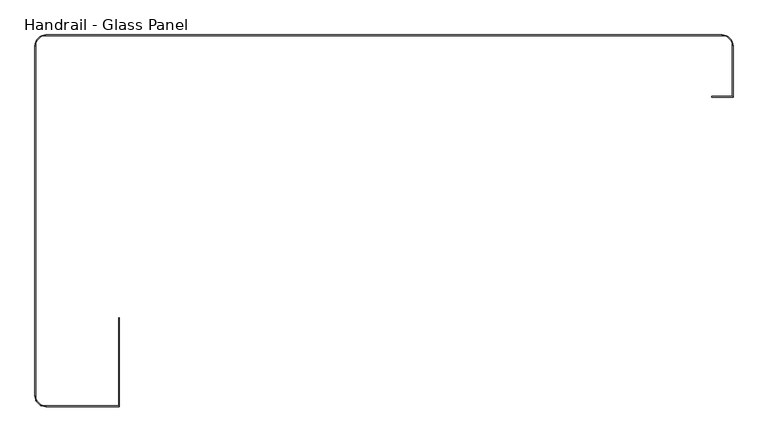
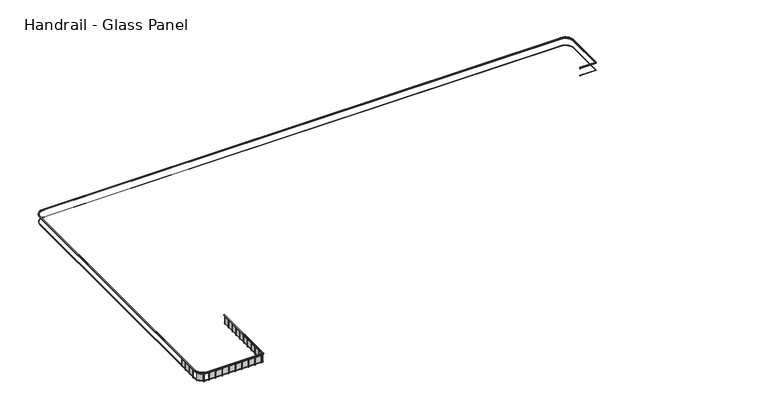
"""IFC4 building model written with IfcOpenShell, lengths in millimetres: railing geometry, Handrail - Glass Panel."""

from ifc_helpers import new_model, si_unit, frame, origin, place, context, project, spatial, polyline, circle_curve, outline, extrude, source, transform, mapped, element, save
from ifc_brep_helpers import plane_surface, cylinder_surface, revolved_surface, advanced_brep


def handrail_glass_panel_1c422638(model_context):
    return source(origin(), model_context, "Body", "SolidModel", [
        advanced_brep(
        [(29418.8682249, 6846.5851347, 12764.4), (29418.8682249, 6897.3851347, 12764.4), (29418.8682249, 6897.3851347, 12713.6), (29418.8682249, 6846.5851347, 12713.6), (31013.2134101, 6846.5851347, 12764.4), (30962.4134101, 6897.3851347, 12764.4), (30962.4134101, 6897.3851347, 12713.6), (31013.2134101, 6846.5851347, 12713.6), (31013.2134101, 10647.3851347, 12764.4), (30962.4134101, 10647.3851347, 12764.4), (30962.4134101, 10647.3851347, 12713.6), (31013.2134101, 10647.3851347, 12713.6), (30212.4134101, 11397.3851347, 12764.4), (30212.4134101, 11448.1851347, 12764.4), (30212.4134101, 11397.3851347, 12713.6), (30212.4134101, 11448.1851347, 12713.6), (-19787.5865899, 11448.1851347, 12764.4), (-19787.5865899, 11397.3851347, 12764.4), (-19787.5865899, 11397.3851347, 12713.6), (-19787.5865899, 11448.1851347, 12713.6), (-20537.5865899, 10647.3851347, 12764.4), (-20588.3865899, 10647.3851347, 12764.4), (-20537.5865899, 10647.3851347, 12713.6), (-20588.3865899, 10647.3851347, 12713.6), (-20588.3865899, -15222.6148653, 12764.4), (-20537.5865899, -15222.6148653, 12764.4), (-20537.5865899, -15222.6148653, 12713.6), (-20588.3865899, -15222.6148653, 12713.6), (-19787.5865899, -15972.6148653, 12764.4), (-19787.5865899, -16023.4148653, 12764.4), (-19787.5865899, -15972.6148653, 12713.6), (-19787.5865899, -16023.4148653, 12713.6), (-14346.7865899, -16023.4148653, 12764.4), (-14397.5865899, -15972.6148653, 12764.4), (-14397.5865899, -15972.6148653, 12713.6), (-14346.7865899, -16023.4148653, 12713.6), (-14346.7865899, -9472.6148653, 12764.4), (-14346.7865899, -9472.6148653, 12713.6), (-14397.5865899, -9472.6148653, 12713.6), (-14397.5865899, -9472.6148653, 12764.4)],
        [
            (0, 1),
            (1, 2),
            (2, 3),
            (3, 0),
            (0, 4),
            (4, 5),
            (5, 1),
            (5, 6),
            (6, 2),
            (6, 7),
            (7, 3),
            (7, 4),
            (4, 8),
            (8, 9),
            (9, 5),
            (9, 10),
            (10, 6),
            (10, 11),
            (11, 7),
            (11, 8),
            (12, 9, circle_curve(frame((30212.4134101, 10647.3851347, 12764.4), z_axis=(0.0, 0.0, -1.0), x_axis=(1.0, 0.0, 0.0)), 750.0)),
            (8, 13, circle_curve(frame((30212.4134101, 10647.3851347, 12764.4), z_axis=(0.0, 0.0, 1.0), x_axis=(1.0, 0.0, 0.0)), 800.8)),
            (13, 12),
            (14, 10, circle_curve(frame((30212.4134101, 10647.3851347, 12713.6), z_axis=(0.0, 0.0, -1.0), x_axis=(1.0, 0.0, 0.0)), 750.0)),
            (12, 14),
            (15, 11, circle_curve(frame((30212.4134101, 10647.3851347, 12713.6), z_axis=(0.0, 0.0, -1.0), x_axis=(1.0, 0.0, 0.0)), 800.8)),
            (14, 15),
            (15, 13),
            (13, 16),
            (16, 17),
            (17, 12),
            (17, 18),
            (18, 14),
            (18, 19),
            (19, 15),
            (19, 16),
            (20, 17, circle_curve(frame((-19787.5865899, 10647.3851347, 12764.4), z_axis=(0.0, 0.0, -1.0), x_axis=(0.0, 1.0, 0.0)), 750.0)),
            (16, 21, circle_curve(frame((-19787.5865899, 10647.3851347, 12764.4), z_axis=(0.0, 0.0, 1.0), x_axis=(0.0, 1.0, 0.0)), 800.8)),
            (21, 20),
            (22, 18, circle_curve(frame((-19787.5865899, 10647.3851347, 12713.6), z_axis=(0.0, 0.0, -1.0), x_axis=(0.0, 1.0, 0.0)), 750.0)),
            (20, 22),
            (23, 19, circle_curve(frame((-19787.5865899, 10647.3851347, 12713.6), z_axis=(0.0, 0.0, -1.0), x_axis=(0.0, 1.0, 0.0)), 800.8)),
            (22, 23),
            (23, 21),
            (21, 24),
            (24, 25),
            (25, 20),
            (25, 26),
            (26, 22),
            (26, 27),
            (27, 23),
            (27, 24),
            (28, 25, circle_curve(frame((-19787.5865899, -15222.6148653, 12764.4), z_axis=(0.0, 0.0, -1.0), x_axis=(-1.0, 0.0, 0.0)), 750.0)),
            (24, 29, circle_curve(frame((-19787.5865899, -15222.6148653, 12764.4), z_axis=(0.0, 0.0, 1.0), x_axis=(-1.0, 0.0, 0.0)), 800.8)),
            (29, 28),
            (30, 26, circle_curve(frame((-19787.5865899, -15222.6148653, 12713.6), z_axis=(0.0, 0.0, -1.0), x_axis=(-1.0, 0.0, 0.0)), 750.0)),
            (28, 30),
            (31, 27, circle_curve(frame((-19787.5865899, -15222.6148653, 12713.6), z_axis=(0.0, 0.0, -1.0), x_axis=(-1.0, 0.0, 0.0)), 800.8)),
            (30, 31),
            (31, 29),
            (29, 32),
            (32, 33),
            (33, 28),
            (33, 34),
            (34, 30),
            (34, 35),
            (35, 31),
            (35, 32),
            (36, 37),
            (37, 38),
            (38, 39),
            (39, 36),
            (32, 36),
            (39, 33),
            (38, 34),
            (37, 35),
        ],
        [
            plane_surface(frame((29418.8682249, 6871.9851347, 12764.4), z_axis=(-1.0, 0.0, 0.0), x_axis=(0.0, 1.0, 0.0))),
            plane_surface(frame((29418.8682249, 6846.5851347, 12764.4), z_axis=(0.0, 0.0, 1.0), x_axis=(1.0, 0.0, 0.0))),
            plane_surface(frame((29418.8682249, 6897.3851347, 12764.4), z_axis=(0.0, 1.0, 0.0), x_axis=(1.0, 0.0, 0.0))),
            plane_surface(frame((29418.8682249, 6897.3851347, 12713.6), z_axis=(0.0, 0.0, -1.0), x_axis=(1.0, 0.0, 0.0))),
            plane_surface(frame((29418.8682249, 6846.5851347, 12713.6), z_axis=(0.0, -1.0, 0.0), x_axis=(1.0, 0.0, 0.0))),
            plane_surface(frame((31013.2134101, 6846.5851347, 12764.4), z_axis=(0.0, 0.0, 1.0), x_axis=(0.0, 1.0, 0.0))),
            plane_surface(frame((30962.4134101, 6897.3851347, 12764.4), z_axis=(-1.0, 0.0, 0.0), x_axis=(0.0, 1.0, 0.0))),
            plane_surface(frame((30962.4134101, 6897.3851347, 12713.6), z_axis=(0.0, 0.0, -1.0), x_axis=(0.0, 1.0, 0.0))),
            plane_surface(frame((31013.2134101, 6846.5851347, 12713.6), z_axis=(1.0, 0.0, 0.0), x_axis=(0.0, 1.0, 0.0))),
            plane_surface(frame((30212.4134101, 10647.3851347, 12764.4), z_axis=(0.0, 0.0, 1.0), x_axis=(1.0, 0.0, 0.0))),
            revolved_surface(polyline([(30962.4134101, 10647.3851347, 12764.4), (30962.4134101, 10647.3851347, 12713.6)]), (30212.4134101, 10647.3851347, 12764.4), (0.0, 0.0, 1.0)),
            plane_surface(frame((30212.4134101, 10647.3851347, 12713.6), z_axis=(0.0, 0.0, -1.0), x_axis=(1.0, 0.0, 0.0))),
            cylinder_surface(frame((30212.4134101, 10647.3851347, 12764.4), z_axis=(0.0, 0.0, 1.0), x_axis=(1.0, 0.0, 0.0)), 800.8),
            plane_surface(frame((30212.4134101, 11448.1851347, 12764.4), z_axis=(0.0, 0.0, 1.0), x_axis=(-1.0, 0.0, 0.0))),
            plane_surface(frame((30212.4134101, 11397.3851347, 12764.4), z_axis=(0.0, -1.0, 0.0), x_axis=(-1.0, 0.0, 0.0))),
            plane_surface(frame((30212.4134101, 11397.3851347, 12713.6), z_axis=(0.0, 0.0, -1.0), x_axis=(-1.0, 0.0, 0.0))),
            plane_surface(frame((30212.4134101, 11448.1851347, 12713.6), z_axis=(0.0, 1.0, 0.0), x_axis=(-1.0, 0.0, 0.0))),
            plane_surface(frame((-19787.5865899, 10647.3851347, 12764.4), z_axis=(0.0, 0.0, 1.0), x_axis=(0.0, 1.0, 0.0))),
            revolved_surface(polyline([(-19787.5865899, 11397.3851347, 12764.4), (-19787.5865899, 11397.3851347, 12713.6)]), (-19787.5865899, 10647.3851347, 12764.4), (0.0, 0.0, 1.0)),
            plane_surface(frame((-19787.5865899, 10647.3851347, 12713.6), z_axis=(0.0, 0.0, -1.0), x_axis=(0.0, 1.0, 0.0))),
            cylinder_surface(frame((-19787.5865899, 10647.3851347, 12764.4), z_axis=(0.0, 0.0, 1.0), x_axis=(0.0, 1.0, 0.0)), 800.8),
            plane_surface(frame((-20588.3865899, 10647.3851347, 12764.4), z_axis=(0.0, 0.0, 1.0), x_axis=(0.0, -1.0, 0.0))),
            plane_surface(frame((-20537.5865899, 10647.3851347, 12764.4), z_axis=(1.0, 0.0, 0.0), x_axis=(0.0, -1.0, 0.0))),
            plane_surface(frame((-20537.5865899, 10647.3851347, 12713.6), z_axis=(0.0, 0.0, -1.0), x_axis=(0.0, -1.0, 0.0))),
            plane_surface(frame((-20588.3865899, 10647.3851347, 12713.6), z_axis=(-1.0, 0.0, 0.0), x_axis=(0.0, -1.0, 0.0))),
            plane_surface(frame((-19787.5865899, -15222.6148653, 12764.4), z_axis=(0.0, 0.0, 1.0), x_axis=(-1.0, 0.0, 0.0))),
            revolved_surface(polyline([(-20537.5865899, -15222.6148653, 12764.4), (-20537.5865899, -15222.6148653, 12713.6)]), (-19787.5865899, -15222.6148653, 12764.4), (0.0, 0.0, 1.0)),
            plane_surface(frame((-19787.5865899, -15222.6148653, 12713.6), z_axis=(0.0, 0.0, -1.0), x_axis=(-1.0, 0.0, 0.0))),
            cylinder_surface(frame((-19787.5865899, -15222.6148653, 12764.4), z_axis=(0.0, 0.0, 1.0), x_axis=(-1.0, 0.0, 0.0)), 800.8),
            plane_surface(frame((-19787.5865899, -16023.4148653, 12764.4), z_axis=(0.0, 0.0, 1.0), x_axis=(1.0, 0.0, 0.0))),
            plane_surface(frame((-19787.5865899, -15972.6148653, 12764.4), z_axis=(0.0, 1.0, 0.0), x_axis=(1.0, 0.0, 0.0))),
            plane_surface(frame((-19787.5865899, -15972.6148653, 12713.6), z_axis=(0.0, 0.0, -1.0), x_axis=(1.0, 0.0, 0.0))),
            plane_surface(frame((-19787.5865899, -16023.4148653, 12713.6), z_axis=(0.0, -1.0, 0.0), x_axis=(1.0, 0.0, 0.0))),
            plane_surface(frame((-14372.1865899, -9472.6148653, 12764.4), z_axis=(0.0, 1.0, 0.0), x_axis=(0.0, 0.0, 1.0))),
            plane_surface(frame((-14346.7865899, -16023.4148653, 12764.4), z_axis=(0.0, 0.0, 1.0), x_axis=(0.0, 1.0, 0.0))),
            plane_surface(frame((-14397.5865899, -15972.6148653, 12764.4), z_axis=(-1.0, 0.0, 0.0), x_axis=(0.0, 1.0, 0.0))),
            plane_surface(frame((-14397.5865899, -15972.6148653, 12713.6), z_axis=(0.0, 0.0, -1.0), x_axis=(0.0, 1.0, 0.0))),
            plane_surface(frame((-14346.7865899, -16023.4148653, 12713.6), z_axis=(1.0, 0.0, 0.0), x_axis=(0.0, 1.0, 0.0))),
        ],
        [
            (0, [[1, 2, 3, 4]]),
            (1, [[-1, 5, 6, 7]]),
            (2, [[-2, -7, 8, 9]]),
            (3, [[-3, -9, 10, 11]]),
            (4, [[-4, -11, 12, -5]]),
            (5, [[-6, 13, 14, 15]]),
            (6, [[-8, -15, 16, 17]]),
            (7, [[-10, -17, 18, 19]]),
            (8, [[-12, -19, 20, -13]]),
            (9, [[21, -14, 22, 23]]),
            (10, [[24, -16, -21, 25]]),
            (11, [[26, -18, -24, 27]]),
            (12, [[-22, -20, -26, 28]]),
            (13, [[-23, 29, 30, 31]]),
            (14, [[-25, -31, 32, 33]]),
            (15, [[-27, -33, 34, 35]]),
            (16, [[-28, -35, 36, -29]]),
            (17, [[37, -30, 38, 39]]),
            (18, [[40, -32, -37, 41]]),
            (19, [[42, -34, -40, 43]]),
            (20, [[-38, -36, -42, 44]]),
            (21, [[-39, 45, 46, 47]]),
            (22, [[-41, -47, 48, 49]]),
            (23, [[-43, -49, 50, 51]]),
            (24, [[-44, -51, 52, -45]]),
            (25, [[53, -46, 54, 55]]),
            (26, [[56, -48, -53, 57]]),
            (27, [[58, -50, -56, 59]]),
            (28, [[-54, -52, -58, 60]]),
            (29, [[-55, 61, 62, 63]]),
            (30, [[-57, -63, 64, 65]]),
            (31, [[-59, -65, 66, 67]]),
            (32, [[-60, -67, 68, -61]]),
            (33, [[69, 70, 71, 72]]),
            (34, [[-62, 73, -72, 74]]),
            (35, [[-64, -74, -71, 75]]),
            (36, [[-66, -75, -70, 76]]),
            (37, [[-68, -76, -69, -73]]),
        ],
    ),
        advanced_brep(
        [(29418.8682249, 6859.2851347, 12662.8), (29418.8682249, 6884.6851347, 12662.8), (29418.8682249, 6884.6851347, 12637.4), (29418.8682249, 6859.2851347, 12637.4), (31000.5134101, 6859.2851347, 12662.8), (30975.1134101, 6884.6851347, 12662.8), (30975.1134101, 6884.6851347, 12637.4), (31000.5134101, 6859.2851347, 12637.4), (31000.5134101, 10647.3851347, 12662.8), (30975.1134101, 10647.3851347, 12662.8), (30975.1134101, 10647.3851347, 12637.4), (31000.5134101, 10647.3851347, 12637.4), (30212.4134101, 11410.0851347, 12662.8), (30212.4134101, 11435.4851347, 12662.8), (30212.4134101, 11410.0851347, 12637.4), (30212.4134101, 11435.4851347, 12637.4), (-19787.5865899, 11435.4851347, 12662.8), (-19787.5865899, 11410.0851347, 12662.8), (-19787.5865899, 11410.0851347, 12637.4), (-19787.5865899, 11435.4851347, 12637.4), (-20550.2865899, 10647.3851347, 12662.8), (-20575.6865899, 10647.3851347, 12662.8), (-20550.2865899, 10647.3851347, 12637.4), (-20575.6865899, 10647.3851347, 12637.4), (-20575.6865899, -15222.6148653, 12662.8), (-20550.2865899, -15222.6148653, 12662.8), (-20550.2865899, -15222.6148653, 12637.4), (-20575.6865899, -15222.6148653, 12637.4), (-19787.5865899, -15985.3148653, 12662.8), (-19787.5865899, -16010.7148653, 12662.8), (-19787.5865899, -15985.3148653, 12637.4), (-19787.5865899, -16010.7148653, 12637.4), (-14359.4865899, -16010.7148653, 12662.8), (-14384.8865899, -15985.3148653, 12662.8), (-14384.8865899, -15985.3148653, 12637.4), (-14359.4865899, -16010.7148653, 12637.4), (-14359.4865899, -9472.6148653, 12662.8), (-14359.4865899, -9472.6148653, 12637.4), (-14384.8865899, -9472.6148653, 12637.4), (-14384.8865899, -9472.6148653, 12662.8)],
        [
            (0, 1),
            (1, 2),
            (2, 3),
            (3, 0),
            (0, 4),
            (4, 5),
            (5, 1),
            (5, 6),
            (6, 2),
            (6, 7),
            (7, 3),
            (7, 4),
            (4, 8),
            (8, 9),
            (9, 5),
            (9, 10),
            (10, 6),
            (10, 11),
            (11, 7),
            (11, 8),
            (12, 9, circle_curve(frame((30212.4134101, 10647.3851347, 12662.8), z_axis=(0.0, 0.0, -1.0), x_axis=(1.0, 0.0, 0.0)), 762.7)),
            (8, 13, circle_curve(frame((30212.4134101, 10647.3851347, 12662.8), z_axis=(0.0, 0.0, 1.0), x_axis=(1.0, 0.0, 0.0)), 788.1)),
            (13, 12),
            (14, 10, circle_curve(frame((30212.4134101, 10647.3851347, 12637.4), z_axis=(0.0, 0.0, -1.0), x_axis=(1.0, 0.0, 0.0)), 762.7)),
            (12, 14),
            (15, 11, circle_curve(frame((30212.4134101, 10647.3851347, 12637.4), z_axis=(0.0, 0.0, -1.0), x_axis=(1.0, 0.0, 0.0)), 788.1)),
            (14, 15),
            (15, 13),
            (13, 16),
            (16, 17),
            (17, 12),
            (17, 18),
            (18, 14),
            (18, 19),
            (19, 15),
            (19, 16),
            (20, 17, circle_curve(frame((-19787.5865899, 10647.3851347, 12662.8), z_axis=(0.0, 0.0, -1.0), x_axis=(0.0, 1.0, 0.0)), 762.7)),
            (16, 21, circle_curve(frame((-19787.5865899, 10647.3851347, 12662.8), z_axis=(0.0, 0.0, 1.0), x_axis=(0.0, 1.0, 0.0)), 788.1)),
            (21, 20),
            (22, 18, circle_curve(frame((-19787.5865899, 10647.3851347, 12637.4), z_axis=(0.0, 0.0, -1.0), x_axis=(0.0, 1.0, 0.0)), 762.7)),
            (20, 22),
            (23, 19, circle_curve(frame((-19787.5865899, 10647.3851347, 12637.4), z_axis=(0.0, 0.0, -1.0), x_axis=(0.0, 1.0, 0.0)), 788.1)),
            (22, 23),
            (23, 21),
            (21, 24),
            (24, 25),
            (25, 20),
            (25, 26),
            (26, 22),
            (26, 27),
            (27, 23),
            (27, 24),
            (28, 25, circle_curve(frame((-19787.5865899, -15222.6148653, 12662.8), z_axis=(0.0, 0.0, -1.0), x_axis=(-1.0, 0.0, 0.0)), 762.7)),
            (24, 29, circle_curve(frame((-19787.5865899, -15222.6148653, 12662.8), z_axis=(0.0, 0.0, 1.0), x_axis=(-1.0, 0.0, 0.0)), 788.1)),
            (29, 28),
            (30, 26, circle_curve(frame((-19787.5865899, -15222.6148653, 12637.4), z_axis=(0.0, 0.0, -1.0), x_axis=(-1.0, 0.0, 0.0)), 762.7)),
            (28, 30),
            (31, 27, circle_curve(frame((-19787.5865899, -15222.6148653, 12637.4), z_axis=(0.0, 0.0, -1.0), x_axis=(-1.0, 0.0, 0.0)), 788.1)),
            (30, 31),
            (31, 29),
            (29, 32),
            (32, 33),
            (33, 28),
            (33, 34),
            (34, 30),
            (34, 35),
            (35, 31),
            (35, 32),
            (36, 37),
            (37, 38),
            (38, 39),
            (39, 36),
            (32, 36),
            (39, 33),
            (38, 34),
            (37, 35),
        ],
        [
            plane_surface(frame((29418.8682249, 6871.9851347, 12662.8), z_axis=(-1.0, 0.0, 0.0), x_axis=(0.0, 1.0, 0.0))),
            plane_surface(frame((29418.8682249, 6859.2851347, 12662.8), z_axis=(0.0, 0.0, 1.0), x_axis=(1.0, 0.0, 0.0))),
            plane_surface(frame((29418.8682249, 6884.6851347, 12662.8), z_axis=(0.0, 1.0, 0.0), x_axis=(1.0, 0.0, 0.0))),
            plane_surface(frame((29418.8682249, 6884.6851347, 12637.4), z_axis=(0.0, 0.0, -1.0), x_axis=(1.0, 0.0, 0.0))),
            plane_surface(frame((29418.8682249, 6859.2851347, 12637.4), z_axis=(0.0, -1.0, 0.0), x_axis=(1.0, 0.0, 0.0))),
            plane_surface(frame((31000.5134101, 6859.2851347, 12662.8), z_axis=(0.0, 0.0, 1.0), x_axis=(0.0, 1.0, 0.0))),
            plane_surface(frame((30975.1134101, 6884.6851347, 12662.8), z_axis=(-1.0, 0.0, 0.0), x_axis=(0.0, 1.0, 0.0))),
            plane_surface(frame((30975.1134101, 6884.6851347, 12637.4), z_axis=(0.0, 0.0, -1.0), x_axis=(0.0, 1.0, 0.0))),
            plane_surface(frame((31000.5134101, 6859.2851347, 12637.4), z_axis=(1.0, 0.0, 0.0), x_axis=(0.0, 1.0, 0.0))),
            plane_surface(frame((30212.4134101, 10647.3851347, 12662.8), z_axis=(0.0, 0.0, 1.0), x_axis=(1.0, 0.0, 0.0))),
            revolved_surface(polyline([(30975.113410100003, 10647.3851347, 12662.8), (30975.113410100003, 10647.3851347, 12637.4)]), (30212.4134101, 10647.3851347, 12662.8), (0.0, 0.0, 1.0)),
            plane_surface(frame((30212.4134101, 10647.3851347, 12637.4), z_axis=(0.0, 0.0, -1.0), x_axis=(1.0, 0.0, 0.0))),
            cylinder_surface(frame((30212.4134101, 10647.3851347, 12662.8), z_axis=(0.0, 0.0, 1.0), x_axis=(1.0, 0.0, 0.0)), 788.1),
            plane_surface(frame((30212.4134101, 11435.4851347, 12662.8), z_axis=(0.0, 0.0, 1.0), x_axis=(-1.0, 0.0, 0.0))),
            plane_surface(frame((30212.4134101, 11410.0851347, 12662.8), z_axis=(0.0, -1.0, 0.0), x_axis=(-1.0, 0.0, 0.0))),
            plane_surface(frame((30212.4134101, 11410.0851347, 12637.4), z_axis=(0.0, 0.0, -1.0), x_axis=(-1.0, 0.0, 0.0))),
            plane_surface(frame((30212.4134101, 11435.4851347, 12637.4), z_axis=(0.0, 1.0, 0.0), x_axis=(-1.0, 0.0, 0.0))),
            plane_surface(frame((-19787.5865899, 10647.3851347, 12662.8), z_axis=(0.0, 0.0, 1.0), x_axis=(0.0, 1.0, 0.0))),
            revolved_surface(polyline([(-19787.5865899, 11410.0851347, 12662.8), (-19787.5865899, 11410.0851347, 12637.4)]), (-19787.5865899, 10647.3851347, 12662.8), (0.0, 0.0, 1.0)),
            plane_surface(frame((-19787.5865899, 10647.3851347, 12637.4), z_axis=(0.0, 0.0, -1.0), x_axis=(0.0, 1.0, 0.0))),
            cylinder_surface(frame((-19787.5865899, 10647.3851347, 12662.8), z_axis=(0.0, 0.0, 1.0), x_axis=(0.0, 1.0, 0.0)), 788.1),
            plane_surface(frame((-20575.6865899, 10647.3851347, 12662.8), z_axis=(0.0, 0.0, 1.0), x_axis=(0.0, -1.0, 0.0))),
            plane_surface(frame((-20550.2865899, 10647.3851347, 12662.8), z_axis=(1.0, 0.0, 0.0), x_axis=(0.0, -1.0, 0.0))),
            plane_surface(frame((-20550.2865899, 10647.3851347, 12637.4), z_axis=(0.0, 0.0, -1.0), x_axis=(0.0, -1.0, 0.0))),
            plane_surface(frame((-20575.6865899, 10647.3851347, 12637.4), z_axis=(-1.0, 0.0, 0.0), x_axis=(0.0, -1.0, 0.0))),
            plane_surface(frame((-19787.5865899, -15222.6148653, 12662.8), z_axis=(0.0, 0.0, 1.0), x_axis=(-1.0, 0.0, 0.0))),
            revolved_surface(polyline([(-20550.2865899, -15222.6148653, 12662.8), (-20550.2865899, -15222.6148653, 12637.4)]), (-19787.5865899, -15222.6148653, 12662.8), (0.0, 0.0, 1.0)),
            plane_surface(frame((-19787.5865899, -15222.6148653, 12637.4), z_axis=(0.0, 0.0, -1.0), x_axis=(-1.0, 0.0, 0.0))),
            cylinder_surface(frame((-19787.5865899, -15222.6148653, 12662.8), z_axis=(0.0, 0.0, 1.0), x_axis=(-1.0, 0.0, 0.0)), 788.1),
            plane_surface(frame((-19787.5865899, -16010.7148653, 12662.8), z_axis=(0.0, 0.0, 1.0), x_axis=(1.0, 0.0, 0.0))),
            plane_surface(frame((-19787.5865899, -15985.3148653, 12662.8), z_axis=(0.0, 1.0, 0.0), x_axis=(1.0, 0.0, 0.0))),
            plane_surface(frame((-19787.5865899, -15985.3148653, 12637.4), z_axis=(0.0, 0.0, -1.0), x_axis=(1.0, 0.0, 0.0))),
            plane_surface(frame((-19787.5865899, -16010.7148653, 12637.4), z_axis=(0.0, -1.0, 0.0), x_axis=(1.0, 0.0, 0.0))),
            plane_surface(frame((-14372.1865899, -9472.6148653, 12662.8), z_axis=(0.0, 1.0, 0.0), x_axis=(0.0, 0.0, 1.0))),
            plane_surface(frame((-14359.4865899, -16010.7148653, 12662.8), z_axis=(0.0, 0.0, 1.0), x_axis=(0.0, 1.0, 0.0))),
            plane_surface(frame((-14384.8865899, -15985.3148653, 12662.8), z_axis=(-1.0, 0.0, 0.0), x_axis=(0.0, 1.0, 0.0))),
            plane_surface(frame((-14384.8865899, -15985.3148653, 12637.4), z_axis=(0.0, 0.0, -1.0), x_axis=(0.0, 1.0, 0.0))),
            plane_surface(frame((-14359.4865899, -16010.7148653, 12637.4), z_axis=(1.0, 0.0, 0.0), x_axis=(0.0, 1.0, 0.0))),
        ],
        [
            (0, [[1, 2, 3, 4]]),
            (1, [[-1, 5, 6, 7]]),
            (2, [[-2, -7, 8, 9]]),
            (3, [[-3, -9, 10, 11]]),
            (4, [[-4, -11, 12, -5]]),
            (5, [[-6, 13, 14, 15]]),
            (6, [[-8, -15, 16, 17]]),
            (7, [[-10, -17, 18, 19]]),
            (8, [[-12, -19, 20, -13]]),
            (9, [[21, -14, 22, 23]]),
            (10, [[24, -16, -21, 25]]),
            (11, [[26, -18, -24, 27]]),
            (12, [[-22, -20, -26, 28]]),
            (13, [[-23, 29, 30, 31]]),
            (14, [[-25, -31, 32, 33]]),
            (15, [[-27, -33, 34, 35]]),
            (16, [[-28, -35, 36, -29]]),
            (17, [[37, -30, 38, 39]]),
            (18, [[40, -32, -37, 41]]),
            (19, [[42, -34, -40, 43]]),
            (20, [[-38, -36, -42, 44]]),
            (21, [[-39, 45, 46, 47]]),
            (22, [[-41, -47, 48, 49]]),
            (23, [[-43, -49, 50, 51]]),
            (24, [[-44, -51, 52, -45]]),
            (25, [[53, -46, 54, 55]]),
            (26, [[56, -48, -53, 57]]),
            (27, [[58, -50, -56, 59]]),
            (28, [[-54, -52, -58, 60]]),
            (29, [[-55, 61, 62, 63]]),
            (30, [[-57, -63, 64, 65]]),
            (31, [[-59, -65, 66, 67]]),
            (32, [[-60, -67, 68, -61]]),
            (33, [[69, 70, 71, 72]]),
            (34, [[-62, 73, -72, 74]]),
            (35, [[-64, -74, -71, 75]]),
            (36, [[-66, -75, -70, 76]]),
            (37, [[-68, -76, -69, -73]]),
        ],
    ),
        advanced_brep(
        [(29418.8682249, 6859.2851347, 11951.6), (29418.8682249, 6884.6851347, 11951.6), (29418.8682249, 6884.6851347, 11926.2), (29418.8682249, 6859.2851347, 11926.2), (31000.5134101, 6859.2851347, 11951.6), (30975.1134101, 6884.6851347, 11951.6), (30975.1134101, 6884.6851347, 11926.2), (31000.5134101, 6859.2851347, 11926.2), (31000.5134101, 10647.3851347, 11951.6), (30975.1134101, 10647.3851347, 11951.6), (30975.1134101, 10647.3851347, 11926.2), (31000.5134101, 10647.3851347, 11926.2), (30212.4134101, 11410.0851347, 11951.6), (30212.4134101, 11435.4851347, 11951.6), (30212.4134101, 11410.0851347, 11926.2), (30212.4134101, 11435.4851347, 11926.2), (-19787.5865899, 11435.4851347, 11951.6), (-19787.5865899, 11410.0851347, 11951.6), (-19787.5865899, 11410.0851347, 11926.2), (-19787.5865899, 11435.4851347, 11926.2), (-20550.2865899, 10647.3851347, 11951.6), (-20575.6865899, 10647.3851347, 11951.6), (-20550.2865899, 10647.3851347, 11926.2), (-20575.6865899, 10647.3851347, 11926.2), (-20575.6865899, -15222.6148653, 11951.6), (-20550.2865899, -15222.6148653, 11951.6), (-20550.2865899, -15222.6148653, 11926.2), (-20575.6865899, -15222.6148653, 11926.2), (-19787.5865899, -15985.3148653, 11951.6), (-19787.5865899, -16010.7148653, 11951.6), (-19787.5865899, -15985.3148653, 11926.2), (-19787.5865899, -16010.7148653, 11926.2), (-14359.4865899, -16010.7148653, 11951.6), (-14384.8865899, -15985.3148653, 11951.6), (-14384.8865899, -15985.3148653, 11926.2), (-14359.4865899, -16010.7148653, 11926.2), (-14359.4865899, -9472.6148653, 11951.6), (-14359.4865899, -9472.6148653, 11926.2), (-14384.8865899, -9472.6148653, 11926.2), (-14384.8865899, -9472.6148653, 11951.6)],
        [
            (0, 1),
            (1, 2),
            (2, 3),
            (3, 0),
            (0, 4),
            (4, 5),
            (5, 1),
            (5, 6),
            (6, 2),
            (6, 7),
            (7, 3),
            (7, 4),
            (4, 8),
            (8, 9),
            (9, 5),
            (9, 10),
            (10, 6),
            (10, 11),
            (11, 7),
            (11, 8),
            (12, 9, circle_curve(frame((30212.4134101, 10647.3851347, 11951.6), z_axis=(0.0, 0.0, -1.0), x_axis=(1.0, 0.0, 0.0)), 762.7)),
            (8, 13, circle_curve(frame((30212.4134101, 10647.3851347, 11951.6), z_axis=(0.0, 0.0, 1.0), x_axis=(1.0, 0.0, 0.0)), 788.1)),
            (13, 12),
            (14, 10, circle_curve(frame((30212.4134101, 10647.3851347, 11926.2), z_axis=(0.0, 0.0, -1.0), x_axis=(1.0, 0.0, 0.0)), 762.7)),
            (12, 14),
            (15, 11, circle_curve(frame((30212.4134101, 10647.3851347, 11926.2), z_axis=(0.0, 0.0, -1.0), x_axis=(1.0, 0.0, 0.0)), 788.1)),
            (14, 15),
            (15, 13),
            (13, 16),
            (16, 17),
            (17, 12),
            (17, 18),
            (18, 14),
            (18, 19),
            (19, 15),
            (19, 16),
            (20, 17, circle_curve(frame((-19787.5865899, 10647.3851347, 11951.6), z_axis=(0.0, 0.0, -1.0), x_axis=(0.0, 1.0, 0.0)), 762.7)),
            (16, 21, circle_curve(frame((-19787.5865899, 10647.3851347, 11951.6), z_axis=(0.0, 0.0, 1.0), x_axis=(0.0, 1.0, 0.0)), 788.1)),
            (21, 20),
            (22, 18, circle_curve(frame((-19787.5865899, 10647.3851347, 11926.2), z_axis=(0.0, 0.0, -1.0), x_axis=(0.0, 1.0, 0.0)), 762.7)),
            (20, 22),
            (23, 19, circle_curve(frame((-19787.5865899, 10647.3851347, 11926.2), z_axis=(0.0, 0.0, -1.0), x_axis=(0.0, 1.0, 0.0)), 788.1)),
            (22, 23),
            (23, 21),
            (21, 24),
            (24, 25),
            (25, 20),
            (25, 26),
            (26, 22),
            (26, 27),
            (27, 23),
            (27, 24),
            (28, 25, circle_curve(frame((-19787.5865899, -15222.6148653, 11951.6), z_axis=(0.0, 0.0, -1.0), x_axis=(-1.0, 0.0, 0.0)), 762.7)),
            (24, 29, circle_curve(frame((-19787.5865899, -15222.6148653, 11951.6), z_axis=(0.0, 0.0, 1.0), x_axis=(-1.0, 0.0, 0.0)), 788.1)),
            (29, 28),
            (30, 26, circle_curve(frame((-19787.5865899, -15222.6148653, 11926.2), z_axis=(0.0, 0.0, -1.0), x_axis=(-1.0, 0.0, 0.0)), 762.7)),
            (28, 30),
            (31, 27, circle_curve(frame((-19787.5865899, -15222.6148653, 11926.2), z_axis=(0.0, 0.0, -1.0), x_axis=(-1.0, 0.0, 0.0)), 788.1)),
            (30, 31),
            (31, 29),
            (29, 32),
            (32, 33),
            (33, 28),
            (33, 34),
            (34, 30),
            (34, 35),
            (35, 31),
            (35, 32),
            (36, 37),
            (37, 38),
            (38, 39),
            (39, 36),
            (32, 36),
            (39, 33),
            (38, 34),
            (37, 35),
        ],
        [
            plane_surface(frame((29418.8682249, 6871.9851347, 11951.6), z_axis=(-1.0, 0.0, 0.0), x_axis=(0.0, 1.0, 0.0))),
            plane_surface(frame((29418.8682249, 6859.2851347, 11951.6), z_axis=(0.0, 0.0, 1.0), x_axis=(1.0, 0.0, 0.0))),
            plane_surface(frame((29418.8682249, 6884.6851347, 11951.6), z_axis=(0.0, 1.0, 0.0), x_axis=(1.0, 0.0, 0.0))),
            plane_surface(frame((29418.8682249, 6884.6851347, 11926.2), z_axis=(0.0, 0.0, -1.0), x_axis=(1.0, 0.0, 0.0))),
            plane_surface(frame((29418.8682249, 6859.2851347, 11926.2), z_axis=(0.0, -1.0, 0.0), x_axis=(1.0, 0.0, 0.0))),
            plane_surface(frame((31000.5134101, 6859.2851347, 11951.6), z_axis=(0.0, 0.0, 1.0), x_axis=(0.0, 1.0, 0.0))),
            plane_surface(frame((30975.1134101, 6884.6851347, 11951.6), z_axis=(-1.0, 0.0, 0.0), x_axis=(0.0, 1.0, 0.0))),
            plane_surface(frame((30975.1134101, 6884.6851347, 11926.2), z_axis=(0.0, 0.0, -1.0), x_axis=(0.0, 1.0, 0.0))),
            plane_surface(frame((31000.5134101, 6859.2851347, 11926.2), z_axis=(1.0, 0.0, 0.0), x_axis=(0.0, 1.0, 0.0))),
            plane_surface(frame((30212.4134101, 10647.3851347, 11951.6), z_axis=(0.0, 0.0, 1.0), x_axis=(1.0, 0.0, 0.0))),
            revolved_surface(polyline([(30975.113410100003, 10647.3851347, 11951.6), (30975.113410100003, 10647.3851347, 11926.2)]), (30212.4134101, 10647.3851347, 11951.6), (0.0, 0.0, 1.0)),
            plane_surface(frame((30212.4134101, 10647.3851347, 11926.2), z_axis=(0.0, 0.0, -1.0), x_axis=(1.0, 0.0, 0.0))),
            cylinder_surface(frame((30212.4134101, 10647.3851347, 11951.6), z_axis=(0.0, 0.0, 1.0), x_axis=(1.0, 0.0, 0.0)), 788.1),
            plane_surface(frame((30212.4134101, 11435.4851347, 11951.6), z_axis=(0.0, 0.0, 1.0), x_axis=(-1.0, 0.0, 0.0))),
            plane_surface(frame((30212.4134101, 11410.0851347, 11951.6), z_axis=(0.0, -1.0, 0.0), x_axis=(-1.0, 0.0, 0.0))),
            plane_surface(frame((30212.4134101, 11410.0851347, 11926.2), z_axis=(0.0, 0.0, -1.0), x_axis=(-1.0, 0.0, 0.0))),
            plane_surface(frame((30212.4134101, 11435.4851347, 11926.2), z_axis=(0.0, 1.0, 0.0), x_axis=(-1.0, 0.0, 0.0))),
            plane_surface(frame((-19787.5865899, 10647.3851347, 11951.6), z_axis=(0.0, 0.0, 1.0), x_axis=(0.0, 1.0, 0.0))),
            revolved_surface(polyline([(-19787.5865899, 11410.0851347, 11951.6), (-19787.5865899, 11410.0851347, 11926.2)]), (-19787.5865899, 10647.3851347, 11951.6), (0.0, 0.0, 1.0)),
            plane_surface(frame((-19787.5865899, 10647.3851347, 11926.2), z_axis=(0.0, 0.0, -1.0), x_axis=(0.0, 1.0, 0.0))),
            cylinder_surface(frame((-19787.5865899, 10647.3851347, 11951.6), z_axis=(0.0, 0.0, 1.0), x_axis=(0.0, 1.0, 0.0)), 788.1),
            plane_surface(frame((-20575.6865899, 10647.3851347, 11951.6), z_axis=(0.0, 0.0, 1.0), x_axis=(0.0, -1.0, 0.0))),
            plane_surface(frame((-20550.2865899, 10647.3851347, 11951.6), z_axis=(1.0, 0.0, 0.0), x_axis=(0.0, -1.0, 0.0))),
            plane_surface(frame((-20550.2865899, 10647.3851347, 11926.2), z_axis=(0.0, 0.0, -1.0), x_axis=(0.0, -1.0, 0.0))),
            plane_surface(frame((-20575.6865899, 10647.3851347, 11926.2), z_axis=(-1.0, 0.0, 0.0), x_axis=(0.0, -1.0, 0.0))),
            plane_surface(frame((-19787.5865899, -15222.6148653, 11951.6), z_axis=(0.0, 0.0, 1.0), x_axis=(-1.0, 0.0, 0.0))),
            revolved_surface(polyline([(-20550.2865899, -15222.6148653, 11951.6), (-20550.2865899, -15222.6148653, 11926.2)]), (-19787.5865899, -15222.6148653, 11951.6), (0.0, 0.0, 1.0)),
            plane_surface(frame((-19787.5865899, -15222.6148653, 11926.2), z_axis=(0.0, 0.0, -1.0), x_axis=(-1.0, 0.0, 0.0))),
            cylinder_surface(frame((-19787.5865899, -15222.6148653, 11951.6), z_axis=(0.0, 0.0, 1.0), x_axis=(-1.0, 0.0, 0.0)), 788.1),
            plane_surface(frame((-19787.5865899, -16010.7148653, 11951.6), z_axis=(0.0, 0.0, 1.0), x_axis=(1.0, 0.0, 0.0))),
            plane_surface(frame((-19787.5865899, -15985.3148653, 11951.6), z_axis=(0.0, 1.0, 0.0), x_axis=(1.0, 0.0, 0.0))),
            plane_surface(frame((-19787.5865899, -15985.3148653, 11926.2), z_axis=(0.0, 0.0, -1.0), x_axis=(1.0, 0.0, 0.0))),
            plane_surface(frame((-19787.5865899, -16010.7148653, 11926.2), z_axis=(0.0, -1.0, 0.0), x_axis=(1.0, 0.0, 0.0))),
            plane_surface(frame((-14372.1865899, -9472.6148653, 11951.6), z_axis=(0.0, 1.0, 0.0), x_axis=(0.0, 0.0, 1.0))),
            plane_surface(frame((-14359.4865899, -16010.7148653, 11951.6), z_axis=(0.0, 0.0, 1.0), x_axis=(0.0, 1.0, 0.0))),
            plane_surface(frame((-14384.8865899, -15985.3148653, 11951.6), z_axis=(-1.0, 0.0, 0.0), x_axis=(0.0, 1.0, 0.0))),
            plane_surface(frame((-14384.8865899, -15985.3148653, 11926.2), z_axis=(0.0, 0.0, -1.0), x_axis=(0.0, 1.0, 0.0))),
            plane_surface(frame((-14359.4865899, -16010.7148653, 11926.2), z_axis=(1.0, 0.0, 0.0), x_axis=(0.0, 1.0, 0.0))),
        ],
        [
            (0, [[1, 2, 3, 4]]),
            (1, [[-1, 5, 6, 7]]),
            (2, [[-2, -7, 8, 9]]),
            (3, [[-3, -9, 10, 11]]),
            (4, [[-4, -11, 12, -5]]),
            (5, [[-6, 13, 14, 15]]),
            (6, [[-8, -15, 16, 17]]),
            (7, [[-10, -17, 18, 19]]),
            (8, [[-12, -19, 20, -13]]),
            (9, [[21, -14, 22, 23]]),
            (10, [[24, -16, -21, 25]]),
            (11, [[26, -18, -24, 27]]),
            (12, [[-22, -20, -26, 28]]),
            (13, [[-23, 29, 30, 31]]),
            (14, [[-25, -31, 32, 33]]),
            (15, [[-27, -33, 34, 35]]),
            (16, [[-28, -35, 36, -29]]),
            (17, [[37, -30, 38, 39]]),
            (18, [[40, -32, -37, 41]]),
            (19, [[42, -34, -40, 43]]),
            (20, [[-38, -36, -42, 44]]),
            (21, [[-39, 45, 46, 47]]),
            (22, [[-41, -47, 48, 49]]),
            (23, [[-43, -49, 50, 51]]),
            (24, [[-44, -51, 52, -45]]),
            (25, [[53, -46, 54, 55]]),
            (26, [[56, -48, -53, 57]]),
            (27, [[58, -50, -56, 59]]),
            (28, [[-54, -52, -58, 60]]),
            (29, [[-55, 61, 62, 63]]),
            (30, [[-57, -63, 64, 65]]),
            (31, [[-59, -65, 66, 67]]),
            (32, [[-60, -67, 68, -61]]),
            (33, [[69, 70, 71, 72]]),
            (34, [[-62, 73, -72, 74]]),
            (35, [[-64, -74, -71, 75]]),
            (36, [[-66, -75, -70, 76]]),
            (37, [[-68, -76, -69, -73]]),
        ],
    ),
        extrude(outline(polyline([(-14362.6615899, -9569.8398653), (-14381.7115899, -9569.8398653), (-14381.7115899, -9550.7898653), (-14362.6615899, -9550.7898653), (-14362.6615899, -9569.8398653)])), frame((0.0, 0.0, 11850.0), z_axis=(0.0, 0.0, 1.0), x_axis=(1.0, 0.0, 0.0)), (0.0, 0.0, 1.0), 863.6),
        extrude(outline(polyline([(-14378.5365899, -10157.2148653), (-14378.5365899, -9598.4148653), (-14372.1865899, -9598.4148653), (-14372.1865899, -10157.2148653), (-14378.5365899, -10157.2148653)])), frame((0.0, 0.0, 11977.0), z_axis=(0.0, 0.0, 1.0), x_axis=(1.0, 0.0, 0.0)), (0.0, 0.0, 1.0), 635.0),
        extrude(outline(polyline([(-14362.6615899, -10204.8398653), (-14381.7115899, -10204.8398653), (-14381.7115899, -10185.7898653), (-14362.6615899, -10185.7898653), (-14362.6615899, -10204.8398653)])), frame((0.0, 0.0, 11850.0), z_axis=(0.0, 0.0, 1.0), x_axis=(1.0, 0.0, 0.0)), (0.0, 0.0, 1.0), 863.6),
        extrude(outline(polyline([(-14378.5365899, -10792.2148653), (-14378.5365899, -10233.4148653), (-14372.1865899, -10233.4148653), (-14372.1865899, -10792.2148653), (-14378.5365899, -10792.2148653)])), frame((0.0, 0.0, 11977.0), z_axis=(0.0, 0.0, 1.0), x_axis=(1.0, 0.0, 0.0)), (0.0, 0.0, 1.0), 635.0),
        extrude(outline(polyline([(-14362.6615899, -10839.8398653), (-14381.7115899, -10839.8398653), (-14381.7115899, -10820.7898653), (-14362.6615899, -10820.7898653), (-14362.6615899, -10839.8398653)])), frame((0.0, 0.0, 11850.0), z_axis=(0.0, 0.0, 1.0), x_axis=(1.0, 0.0, 0.0)), (0.0, 0.0, 1.0), 863.6),
        extrude(outline(polyline([(-14378.5365899, -11427.2148653), (-14378.5365899, -10868.4148653), (-14372.1865899, -10868.4148653), (-14372.1865899, -11427.2148653), (-14378.5365899, -11427.2148653)])), frame((0.0, 0.0, 11977.0), z_axis=(0.0, 0.0, 1.0), x_axis=(1.0, 0.0, 0.0)), (0.0, 0.0, 1.0), 635.0),
        extrude(outline(polyline([(-14362.6615899, -11474.8398653), (-14381.7115899, -11474.8398653), (-14381.7115899, -11455.7898653), (-14362.6615899, -11455.7898653), (-14362.6615899, -11474.8398653)])), frame((0.0, 0.0, 11850.0), z_axis=(0.0, 0.0, 1.0), x_axis=(1.0, 0.0, 0.0)), (0.0, 0.0, 1.0), 863.6),
        extrude(outline(polyline([(-14378.5365899, -12062.2148653), (-14378.5365899, -11503.4148653), (-14372.1865899, -11503.4148653), (-14372.1865899, -12062.2148653), (-14378.5365899, -12062.2148653)])), frame((0.0, 0.0, 11977.0), z_axis=(0.0, 0.0, 1.0), x_axis=(1.0, 0.0, 0.0)), (0.0, 0.0, 1.0), 635.0),
        extrude(outline(polyline([(-14362.6615899, -12109.8398653), (-14381.7115899, -12109.8398653), (-14381.7115899, -12090.7898653), (-14362.6615899, -12090.7898653), (-14362.6615899, -12109.8398653)])), frame((0.0, 0.0, 11850.0), z_axis=(0.0, 0.0, 1.0), x_axis=(1.0, 0.0, 0.0)), (0.0, 0.0, 1.0), 863.6),
        extrude(outline(polyline([(-14378.5365899, -12697.2148653), (-14378.5365899, -12138.4148653), (-14372.1865899, -12138.4148653), (-14372.1865899, -12697.2148653), (-14378.5365899, -12697.2148653)])), frame((0.0, 0.0, 11977.0), z_axis=(0.0, 0.0, 1.0), x_axis=(1.0, 0.0, 0.0)), (0.0, 0.0, 1.0), 635.0),
        extrude(outline(polyline([(-14362.6615899, -12744.8398653), (-14381.7115899, -12744.8398653), (-14381.7115899, -12725.7898653), (-14362.6615899, -12725.7898653), (-14362.6615899, -12744.8398653)])), frame((0.0, 0.0, 11850.0), z_axis=(0.0, 0.0, 1.0), x_axis=(1.0, 0.0, 0.0)), (0.0, 0.0, 1.0), 863.6),
        extrude(outline(polyline([(-14378.5365899, -13332.2148653), (-14378.5365899, -12773.4148653), (-14372.1865899, -12773.4148653), (-14372.1865899, -13332.2148653), (-14378.5365899, -13332.2148653)])), frame((0.0, 0.0, 11977.0), z_axis=(0.0, 0.0, 1.0), x_axis=(1.0, 0.0, 0.0)), (0.0, 0.0, 1.0), 635.0),
        extrude(outline(polyline([(-14362.6615899, -13379.8398653), (-14381.7115899, -13379.8398653), (-14381.7115899, -13360.7898653), (-14362.6615899, -13360.7898653), (-14362.6615899, -13379.8398653)])), frame((0.0, 0.0, 11850.0), z_axis=(0.0, 0.0, 1.0), x_axis=(1.0, 0.0, 0.0)), (0.0, 0.0, 1.0), 863.6),
        extrude(outline(polyline([(-14378.5365899, -13967.2148653), (-14378.5365899, -13408.4148653), (-14372.1865899, -13408.4148653), (-14372.1865899, -13967.2148653), (-14378.5365899, -13967.2148653)])), frame((0.0, 0.0, 11977.0), z_axis=(0.0, 0.0, 1.0), x_axis=(1.0, 0.0, 0.0)), (0.0, 0.0, 1.0), 635.0),
        extrude(outline(polyline([(-14362.6615899, -14014.8398653), (-14381.7115899, -14014.8398653), (-14381.7115899, -13995.7898653), (-14362.6615899, -13995.7898653), (-14362.6615899, -14014.8398653)])), frame((0.0, 0.0, 11850.0), z_axis=(0.0, 0.0, 1.0), x_axis=(1.0, 0.0, 0.0)), (0.0, 0.0, 1.0), 863.6),
        extrude(outline(polyline([(-14378.5365899, -14602.2148653), (-14378.5365899, -14043.4148653), (-14372.1865899, -14043.4148653), (-14372.1865899, -14602.2148653), (-14378.5365899, -14602.2148653)])), frame((0.0, 0.0, 11977.0), z_axis=(0.0, 0.0, 1.0), x_axis=(1.0, 0.0, 0.0)), (0.0, 0.0, 1.0), 635.0),
        extrude(outline(polyline([(-14362.6615899, -14649.8398653), (-14381.7115899, -14649.8398653), (-14381.7115899, -14630.7898653), (-14362.6615899, -14630.7898653), (-14362.6615899, -14649.8398653)])), frame((0.0, 0.0, 11850.0), z_axis=(0.0, 0.0, 1.0), x_axis=(1.0, 0.0, 0.0)), (0.0, 0.0, 1.0), 863.6),
        extrude(outline(polyline([(-14378.5365899, -15237.2148653), (-14378.5365899, -14678.4148653), (-14372.1865899, -14678.4148653), (-14372.1865899, -15237.2148653), (-14378.5365899, -15237.2148653)])), frame((0.0, 0.0, 11977.0), z_axis=(0.0, 0.0, 1.0), x_axis=(1.0, 0.0, 0.0)), (0.0, 0.0, 1.0), 635.0),
        extrude(outline(polyline([(-14362.6615899, -15284.8398653), (-14381.7115899, -15284.8398653), (-14381.7115899, -15265.7898653), (-14362.6615899, -15265.7898653), (-14362.6615899, -15284.8398653)])), frame((0.0, 0.0, 11850.0), z_axis=(0.0, 0.0, 1.0), x_axis=(1.0, 0.0, 0.0)), (0.0, 0.0, 1.0), 863.6),
        extrude(outline(polyline([(-14378.5365899, -15872.2148653), (-14378.5365899, -15313.4148653), (-14372.1865899, -15313.4148653), (-14372.1865899, -15872.2148653), (-14378.5365899, -15872.2148653)])), frame((0.0, 0.0, 11977.0), z_axis=(0.0, 0.0, 1.0), x_axis=(1.0, 0.0, 0.0)), (0.0, 0.0, 1.0), 635.0),
        extrude(outline(polyline([(-14362.6615899, -15919.8398653), (-14381.7115899, -15919.8398653), (-14381.7115899, -15900.7898653), (-14362.6615899, -15900.7898653), (-14362.6615899, -15919.8398653)])), frame((0.0, 0.0, 11850.0), z_axis=(0.0, 0.0, 1.0), x_axis=(1.0, 0.0, 0.0)), (0.0, 0.0, 1.0), 863.6),
        extrude(outline(polyline([(-14549.4115899, -16007.5398653), (-14549.4115899, -15988.4898653), (-14530.3615899, -15988.4898653), (-14530.3615899, -16007.5398653), (-14549.4115899, -16007.5398653)])), frame((0.0, 0.0, 11850.0), z_axis=(0.0, 0.0, 1.0), x_axis=(1.0, 0.0, 0.0)), (0.0, 0.0, 1.0), 863.6),
        extrude(outline(polyline([(-15136.7865899, -15991.6648653), (-14577.9865899, -15991.6648653), (-14577.9865899, -15998.0148653), (-15136.7865899, -15998.0148653), (-15136.7865899, -15991.6648653)])), frame((0.0, 0.0, 11977.0), z_axis=(0.0, 0.0, 1.0), x_axis=(1.0, 0.0, 0.0)), (0.0, 0.0, 1.0), 635.0),
        extrude(outline(polyline([(-15184.4115899, -16007.5398653), (-15184.4115899, -15988.4898653), (-15165.3615899, -15988.4898653), (-15165.3615899, -16007.5398653), (-15184.4115899, -16007.5398653)])), frame((0.0, 0.0, 11850.0), z_axis=(0.0, 0.0, 1.0), x_axis=(1.0, 0.0, 0.0)), (0.0, 0.0, 1.0), 863.6),
        extrude(outline(polyline([(-15771.7865899, -15991.6648653), (-15212.9865899, -15991.6648653), (-15212.9865899, -15998.0148653), (-15771.7865899, -15998.0148653), (-15771.7865899, -15991.6648653)])), frame((0.0, 0.0, 11977.0), z_axis=(0.0, 0.0, 1.0), x_axis=(1.0, 0.0, 0.0)), (0.0, 0.0, 1.0), 635.0),
        extrude(outline(polyline([(-15819.4115899, -16007.5398653), (-15819.4115899, -15988.4898653), (-15800.3615899, -15988.4898653), (-15800.3615899, -16007.5398653), (-15819.4115899, -16007.5398653)])), frame((0.0, 0.0, 11850.0), z_axis=(0.0, 0.0, 1.0), x_axis=(1.0, 0.0, 0.0)), (0.0, 0.0, 1.0), 863.6),
        extrude(outline(polyline([(-16406.7865899, -15991.6648653), (-15847.9865899, -15991.6648653), (-15847.9865899, -15998.0148653), (-16406.7865899, -15998.0148653), (-16406.7865899, -15991.6648653)])), frame((0.0, 0.0, 11977.0), z_axis=(0.0, 0.0, 1.0), x_axis=(1.0, 0.0, 0.0)), (0.0, 0.0, 1.0), 635.0),
        extrude(outline(polyline([(-16454.4115899, -16007.5398653), (-16454.4115899, -15988.4898653), (-16435.3615899, -15988.4898653), (-16435.3615899, -16007.5398653), (-16454.4115899, -16007.5398653)])), frame((0.0, 0.0, 11850.0), z_axis=(0.0, 0.0, 1.0), x_axis=(1.0, 0.0, 0.0)), (0.0, 0.0, 1.0), 863.6),
        extrude(outline(polyline([(-17041.7865899, -15991.6648653), (-16482.9865899, -15991.6648653), (-16482.9865899, -15998.0148653), (-17041.7865899, -15998.0148653), (-17041.7865899, -15991.6648653)])), frame((0.0, 0.0, 11977.0), z_axis=(0.0, 0.0, 1.0), x_axis=(1.0, 0.0, 0.0)), (0.0, 0.0, 1.0), 635.0),
        extrude(outline(polyline([(-17089.4115899, -16007.5398653), (-17089.4115899, -15988.4898653), (-17070.3615899, -15988.4898653), (-17070.3615899, -16007.5398653), (-17089.4115899, -16007.5398653)])), frame((0.0, 0.0, 11850.0), z_axis=(0.0, 0.0, 1.0), x_axis=(1.0, 0.0, 0.0)), (0.0, 0.0, 1.0), 863.6),
        extrude(outline(polyline([(-17676.7865899, -15991.6648653), (-17117.9865899, -15991.6648653), (-17117.9865899, -15998.0148653), (-17676.7865899, -15998.0148653), (-17676.7865899, -15991.6648653)])), frame((0.0, 0.0, 11977.0), z_axis=(0.0, 0.0, 1.0), x_axis=(1.0, 0.0, 0.0)), (0.0, 0.0, 1.0), 635.0),
        extrude(outline(polyline([(-17724.4115899, -16007.5398653), (-17724.4115899, -15988.4898653), (-17705.3615899, -15988.4898653), (-17705.3615899, -16007.5398653), (-17724.4115899, -16007.5398653)])), frame((0.0, 0.0, 11850.0), z_axis=(0.0, 0.0, 1.0), x_axis=(1.0, 0.0, 0.0)), (0.0, 0.0, 1.0), 863.6),
        extrude(outline(polyline([(-18311.7865899, -15991.6648653), (-17752.9865899, -15991.6648653), (-17752.9865899, -15998.0148653), (-18311.7865899, -15998.0148653), (-18311.7865899, -15991.6648653)])), frame((0.0, 0.0, 11977.0), z_axis=(0.0, 0.0, 1.0), x_axis=(1.0, 0.0, 0.0)), (0.0, 0.0, 1.0), 635.0),
        extrude(outline(polyline([(-18359.4115899, -16007.5398653), (-18359.4115899, -15988.4898653), (-18340.3615899, -15988.4898653), (-18340.3615899, -16007.5398653), (-18359.4115899, -16007.5398653)])), frame((0.0, 0.0, 11850.0), z_axis=(0.0, 0.0, 1.0), x_axis=(1.0, 0.0, 0.0)), (0.0, 0.0, 1.0), 863.6),
        extrude(outline(polyline([(-18946.7865899, -15991.6648653), (-18387.9865899, -15991.6648653), (-18387.9865899, -15998.0148653), (-18946.7865899, -15998.0148653), (-18946.7865899, -15991.6648653)])), frame((0.0, 0.0, 11977.0), z_axis=(0.0, 0.0, 1.0), x_axis=(1.0, 0.0, 0.0)), (0.0, 0.0, 1.0), 635.0),
        extrude(outline(polyline([(-18994.4115899, -16007.5398653), (-18994.4115899, -15988.4898653), (-18975.3615899, -15988.4898653), (-18975.3615899, -16007.5398653), (-18994.4115899, -16007.5398653)])), frame((0.0, 0.0, 11850.0), z_axis=(0.0, 0.0, 1.0), x_axis=(1.0, 0.0, 0.0)), (0.0, 0.0, 1.0), 863.6),
        extrude(outline(polyline([(-19581.7865899, -15991.6648653), (-19022.9865899, -15991.6648653), (-19022.9865899, -15998.0148653), (-19581.7865899, -15998.0148653), (-19581.7865899, -15991.6648653)])), frame((0.0, 0.0, 11977.0), z_axis=(0.0, 0.0, 1.0), x_axis=(1.0, 0.0, 0.0)), (0.0, 0.0, 1.0), 635.0),
        extrude(outline(polyline([(-19629.4115899, -16007.5398653), (-19629.4115899, -15988.4898653), (-19610.3615899, -15988.4898653), (-19610.3615899, -16007.5398653), (-19629.4115899, -16007.5398653)])), frame((0.0, 0.0, 11850.0), z_axis=(0.0, 0.0, 1.0), x_axis=(1.0, 0.0, 0.0)), (0.0, 0.0, 1.0), 863.6),
        extrude(outline(polyline([(-20084.6235316, -15949.2282676), (-20077.6295208, -15931.5086087), (-20059.9098618, -15938.5026196), (-20066.9038727, -15956.2222785), (-20084.6235316, -15949.2282676)])), frame((0.0, 0.0, 11850.0), z_axis=(0.0, 0.0, 1.0), x_axis=(1.0, 0.0, 0.0)), (0.0, 0.0, 1.0), 863.6),
        extrude(outline(polyline([(-20528.9526946, -15568.8497007), (-20133.8214253, -15963.98097), (-20138.3115534, -15968.4710981), (-20533.4428227, -15573.3398287), (-20528.9526946, -15568.8497007)])), frame((0.0, 0.0, 11977.0), z_axis=(0.0, 0.0, 1.0), x_axis=(1.0, 0.0, 0.0)), (0.0, 0.0, 1.0), 635.0),
        extrude(outline(polyline([(-20521.1940031, -15501.9321481), (-20503.4743442, -15494.9381372), (-20496.4803333, -15512.6577961), (-20514.1999922, -15519.651807), (-20521.1940031, -15501.9321481)])), frame((0.0, 0.0, 11850.0), z_axis=(0.0, 0.0, 1.0), x_axis=(1.0, 0.0, 0.0)), (0.0, 0.0, 1.0), 863.6),
        extrude(outline(polyline([(-20572.5115899, -14978.0898653), (-20553.4615899, -14978.0898653), (-20553.4615899, -14997.1398653), (-20572.5115899, -14997.1398653), (-20572.5115899, -14978.0898653)])), frame((0.0, 0.0, 11850.0), z_axis=(0.0, 0.0, 1.0), x_axis=(1.0, 0.0, 0.0)), (0.0, 0.0, 1.0), 863.6),
        extrude(outline(polyline([(-20556.6365899, -14390.7148653), (-20556.6365899, -14949.5148653), (-20562.9865899, -14949.5148653), (-20562.9865899, -14390.7148653), (-20556.6365899, -14390.7148653)])), frame((0.0, 0.0, 11977.0), z_axis=(0.0, 0.0, 1.0), x_axis=(1.0, 0.0, 0.0)), (0.0, 0.0, 1.0), 635.0),
        extrude(outline(polyline([(-20572.5115899, -14343.0898653), (-20553.4615899, -14343.0898653), (-20553.4615899, -14362.1398653), (-20572.5115899, -14362.1398653), (-20572.5115899, -14343.0898653)])), frame((0.0, 0.0, 11850.0), z_axis=(0.0, 0.0, 1.0), x_axis=(1.0, 0.0, 0.0)), (0.0, 0.0, 1.0), 863.6),
        extrude(outline(polyline([(-20556.6365899, -13755.7148653), (-20556.6365899, -14314.5148653), (-20562.9865899, -14314.5148653), (-20562.9865899, -13755.7148653), (-20556.6365899, -13755.7148653)])), frame((0.0, 0.0, 11977.0), z_axis=(0.0, 0.0, 1.0), x_axis=(1.0, 0.0, 0.0)), (0.0, 0.0, 1.0), 635.0),
        extrude(outline(polyline([(-20572.5115899, -13708.0898653), (-20553.4615899, -13708.0898653), (-20553.4615899, -13727.1398653), (-20572.5115899, -13727.1398653), (-20572.5115899, -13708.0898653)])), frame((0.0, 0.0, 11850.0), z_axis=(0.0, 0.0, 1.0), x_axis=(1.0, 0.0, 0.0)), (0.0, 0.0, 1.0), 863.6),
        extrude(outline(polyline([(-20556.6365899, -13120.7148653), (-20556.6365899, -13679.5148653), (-20562.9865899, -13679.5148653), (-20562.9865899, -13120.7148653), (-20556.6365899, -13120.7148653)])), frame((0.0, 0.0, 11977.0), z_axis=(0.0, 0.0, 1.0), x_axis=(1.0, 0.0, 0.0)), (0.0, 0.0, 1.0), 635.0),
        extrude(outline(polyline([(-20572.5115899, -13073.0898653), (-20553.4615899, -13073.0898653), (-20553.4615899, -13092.1398653), (-20572.5115899, -13092.1398653), (-20572.5115899, -13073.0898653)])), frame((0.0, 0.0, 11850.0), z_axis=(0.0, 0.0, 1.0), x_axis=(1.0, 0.0, 0.0)), (0.0, 0.0, 1.0), 863.6),
    ])


if __name__ == "__main__":
    model = new_model("IFC4")
    model_context = context("Model", 3, world=origin())
    ifc_project = project(units=[si_unit("LENGTHUNIT", "METRE", prefix="MILLI")], contexts=[model_context])
    site = spatial("IfcSite", under=ifc_project)
    building = spatial("IfcBuilding", under=site)
    placement = place(None, origin())
    handrail_glass_panel_shape = handrail_glass_panel_1c422638(model_context)
    element("IfcRailing", 1, ObjectType="Handrail - Glass Panel", at=placement, inside=building, context=model_context, shape_type="MappedRepresentation", body=[
        mapped(handrail_glass_panel_shape, transform((0.0, 0.0, 0.0), x_axis=(1.0, 0.0, 0.0), y_axis=(0.0, 1.0, 0.0), z_axis=(0.0, 0.0, 1.0))),
    ])
    save(model, "model.ifc")
